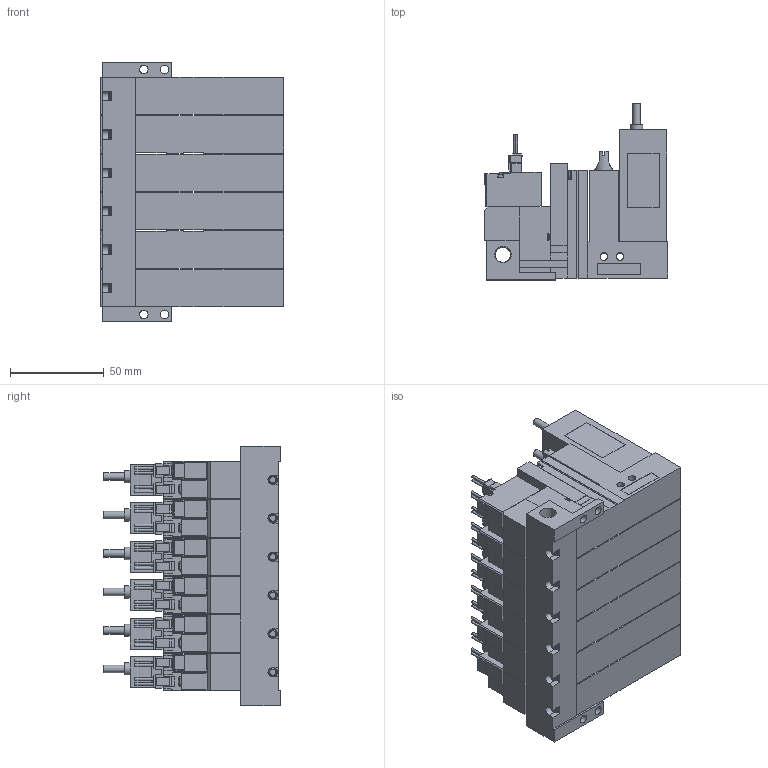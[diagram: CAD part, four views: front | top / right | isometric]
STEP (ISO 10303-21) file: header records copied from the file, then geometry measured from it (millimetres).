
FILE_DESCRIPTION(('STEP AP203'),'1');
FILE_NAME('VG_VGPLC5ALR606.stp','2025-02-19T02:23:13',(' '),(' '),'Spatial InterOp 3D',' ',' ');
FILE_SCHEMA(('CONFIG_CONTROL_DESIGN'));
Length unit declared in the file: millimetre
Products named in the file (5): BMC22M※※※※VG_VGPLC5ALR606; Solenoid valve A; Pressure sensor VGLC; Unit LC; Base MR60R
Assembly tree (19 placements, depth 2):
  BMC22M※※※※VG_VGPLC5ALR606
    Solenoid valve A  x6
    Pressure sensor VGLC  x6
    Unit LC  x6
    Base MR60R
Bounding box: 97.6 x 94 x 138.5 mm (x, y, z)
Volume: 675986.2 mm3; surface area: 172958.5 mm2
Topology: 19 solids, 19 shells, 2511 faces, 6719 edges, 4420 vertices
Faces by surface type: plane 2126, cylinder 311, cone 44, torus 30
Full cylindrical faces by diameter (mm): 1.4 x24, 2.5 x18, 3 x24, 3.5 x24, 3.6 x6, 4 x36, 4.134 x6, 4.5 x4, 5.2 x6, 6 x6, 6.5 x6, 6.6 x6, 8.279 x1
Entity records: 15907 total; most frequent: CARTESIAN_POINT 3059, DIRECTION 2535, ORIENTED_EDGE 2478, EDGE_CURVE 1239, LINE 1001, VECTOR 1001, VERTEX_POINT 865, AXIS2_PLACEMENT_3D 767
